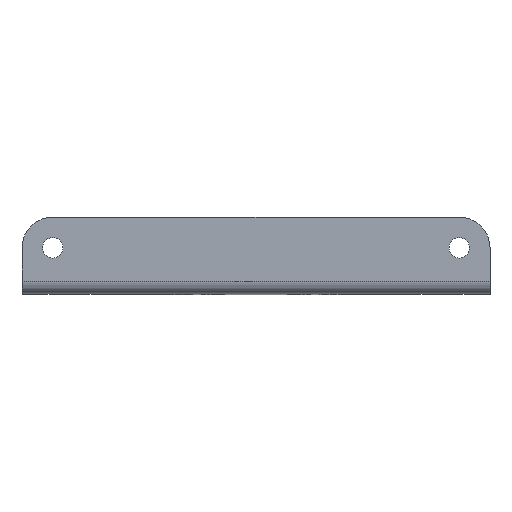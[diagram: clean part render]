
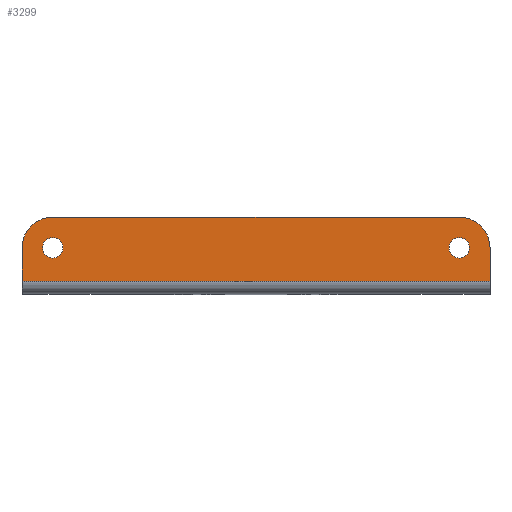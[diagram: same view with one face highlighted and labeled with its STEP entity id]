
A CAD part, top view. The second image highlights one B-rep face of the part: STEP entity #3299.
In plain terms, the highlighted planar face has unit normal (0, 0, 1).
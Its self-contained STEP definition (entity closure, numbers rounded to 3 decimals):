
#95 = VERTEX_POINT ( 'NONE', #1856 ) ;
#174 = CARTESIAN_POINT ( 'NONE',  ( -113., 27., 7.5 ) ) ;
#280 = AXIS2_PLACEMENT_3D ( 'NONE', #2841, #956, #8169 ) ;
#520 = ORIENTED_EDGE ( 'NONE', *, *, #6548, .T. ) ;
#663 = CARTESIAN_POINT ( 'NONE',  ( 113., 27., 7.5 ) ) ;
#720 = DIRECTION ( 'NONE',  ( 0., 0., 1. ) ) ;
#801 = DIRECTION ( 'NONE',  ( 1., 0., 0. ) ) ;
#844 = ORIENTED_EDGE ( 'NONE', *, *, #5737, .T. ) ;
#956 = DIRECTION ( 'NONE',  ( 0., 0., 1. ) ) ;
#1020 = AXIS2_PLACEMENT_3D ( 'NONE', #6902, #1211, #6437 ) ;
#1040 = CARTESIAN_POINT ( 'NONE',  ( -137., 27., 7.5 ) ) ;
#1151 = VECTOR ( 'NONE', #6149, 1000. ) ;
#1211 = DIRECTION ( 'NONE',  ( 0., 0., 1. ) ) ;
#1264 = ORIENTED_EDGE ( 'NONE', *, *, #4742, .F. ) ;
#1303 = CARTESIAN_POINT ( 'NONE',  ( 125., 27., 7.5 ) ) ;
#1351 = VERTEX_POINT ( 'NONE', #1303 ) ;
#1527 = DIRECTION ( 'NONE',  ( 1., 0., 0. ) ) ;
#1651 = ORIENTED_EDGE ( 'NONE', *, *, #5656, .T. ) ;
#1746 = CARTESIAN_POINT ( 'NONE',  ( 137., 5., 7.5 ) ) ;
#1826 = VECTOR ( 'NONE', #1527, 1000. ) ;
#1834 = AXIS2_PLACEMENT_3D ( 'NONE', #1926, #720, #2060 ) ;
#1856 = CARTESIAN_POINT ( 'NONE',  ( -125., 27., 7.5 ) ) ;
#1877 = VERTEX_POINT ( 'NONE', #174 ) ;
#1893 = CARTESIAN_POINT ( 'NONE',  ( 137., 7.5, 7.5 ) ) ;
#1926 = CARTESIAN_POINT ( 'NONE',  ( 119., 27., 7.5 ) ) ;
#1945 = CARTESIAN_POINT ( 'NONE',  ( 119., 27., 7.5 ) ) ;
#2044 = VERTEX_POINT ( 'NONE', #6283 ) ;
#2060 = DIRECTION ( 'NONE',  ( 1., 0., 0. ) ) ;
#2283 = EDGE_LOOP ( 'NONE', ( #1264, #520, #4952, #1651, #5015, #844 ) ) ;
#2368 = ORIENTED_EDGE ( 'NONE', *, *, #6315, .F. ) ;
#2520 = CARTESIAN_POINT ( 'NONE',  ( 137., 5., 7.5 ) ) ;
#2575 = ORIENTED_EDGE ( 'NONE', *, *, #3346, .F. ) ;
#2734 = DIRECTION ( 'NONE',  ( 1., 0., 0. ) ) ;
#2841 = CARTESIAN_POINT ( 'NONE',  ( -119., 27., 7.5 ) ) ;
#2871 = VECTOR ( 'NONE', #7052, 1000. ) ;
#2873 = CARTESIAN_POINT ( 'NONE',  ( 137., 27., 7.5 ) ) ;
#3299 = ADVANCED_FACE ( 'NONE', ( #8380, #5238, #7822 ), #8335, .T. ) ;
#3346 = EDGE_CURVE ( 'NONE', #7965, #1351, #8198, .T. ) ;
#3643 = CARTESIAN_POINT ( 'NONE',  ( -119., 45., 7.5 ) ) ;
#3751 = EDGE_LOOP ( 'NONE', ( #8014, #4897 ) ) ;
#3873 = AXIS2_PLACEMENT_3D ( 'NONE', #5778, #5863, #2734 ) ;
#4026 = CARTESIAN_POINT ( 'NONE',  ( -119., 27., 7.5 ) ) ;
#4138 = CIRCLE ( 'NONE', #3873, 6. ) ;
#4303 = VERTEX_POINT ( 'NONE', #2873 ) ;
#4440 = LINE ( 'NONE', #1893, #2871 ) ;
#4618 = EDGE_CURVE ( 'NONE', #4785, #5582, #7989, .T. ) ;
#4742 = EDGE_CURVE ( 'NONE', #4303, #6519, #6193, .T. ) ;
#4761 = CARTESIAN_POINT ( 'NONE',  ( 137., 45., 7.5 ) ) ;
#4785 = VERTEX_POINT ( 'NONE', #3643 ) ;
#4790 = EDGE_CURVE ( 'NONE', #2044, #6852, #8150, .T. ) ;
#4839 = DIRECTION ( 'NONE',  ( 0., -1., 0. ) ) ;
#4897 = ORIENTED_EDGE ( 'NONE', *, *, #5249, .F. ) ;
#4952 = ORIENTED_EDGE ( 'NONE', *, *, #4618, .F. ) ;
#4968 = AXIS2_PLACEMENT_3D ( 'NONE', #1945, #8310, #8355 ) ;
#5015 = ORIENTED_EDGE ( 'NONE', *, *, #4790, .F. ) ;
#5107 = DIRECTION ( 'NONE',  ( 0., -1., 0. ) ) ;
#5166 = CARTESIAN_POINT ( 'NONE',  ( 137., 7.5, 7.5 ) ) ;
#5238 = FACE_BOUND ( 'NONE', #6623, .T. ) ;
#5249 = EDGE_CURVE ( 'NONE', #95, #1877, #6845, .T. ) ;
#5309 = CIRCLE ( 'NONE', #280, 18. ) ;
#5374 = CIRCLE ( 'NONE', #4968, 18. ) ;
#5582 = VERTEX_POINT ( 'NONE', #8134 ) ;
#5656 = EDGE_CURVE ( 'NONE', #4785, #6852, #5309, .T. ) ;
#5737 = EDGE_CURVE ( 'NONE', #2044, #6519, #4440, .T. ) ;
#5778 = CARTESIAN_POINT ( 'NONE',  ( 119., 27., 7.5 ) ) ;
#5863 = DIRECTION ( 'NONE',  ( 0., 0., 1. ) ) ;
#6105 = CARTESIAN_POINT ( 'NONE',  ( -137., 45., 7.5 ) ) ;
#6149 = DIRECTION ( 'NONE',  ( 0., 1., 0. ) ) ;
#6193 = LINE ( 'NONE', #1746, #7244 ) ;
#6283 = CARTESIAN_POINT ( 'NONE',  ( -137., 7.5, 7.5 ) ) ;
#6315 = EDGE_CURVE ( 'NONE', #1351, #7965, #4138, .T. ) ;
#6437 = DIRECTION ( 'NONE',  ( 1., 0., 0. ) ) ;
#6463 = DIRECTION ( 'NONE',  ( 0., 0., 1. ) ) ;
#6519 = VERTEX_POINT ( 'NONE', #5166 ) ;
#6548 = EDGE_CURVE ( 'NONE', #4303, #5582, #5374, .T. ) ;
#6623 = EDGE_LOOP ( 'NONE', ( #2368, #2575 ) ) ;
#6845 = CIRCLE ( 'NONE', #1020, 6. ) ;
#6852 = VERTEX_POINT ( 'NONE', #1040 ) ;
#6902 = CARTESIAN_POINT ( 'NONE',  ( -119., 27., 7.5 ) ) ;
#7052 = DIRECTION ( 'NONE',  ( 1., 0., 0. ) ) ;
#7120 = DIRECTION ( 'NONE',  ( 0., 0., 1. ) ) ;
#7244 = VECTOR ( 'NONE', #4839, 1000. ) ;
#7284 = CIRCLE ( 'NONE', #7975, 6. ) ;
#7822 = FACE_OUTER_BOUND ( 'NONE', #2283, .T. ) ;
#7965 = VERTEX_POINT ( 'NONE', #663 ) ;
#7973 = EDGE_CURVE ( 'NONE', #1877, #95, #7284, .T. ) ;
#7975 = AXIS2_PLACEMENT_3D ( 'NONE', #4026, #7120, #801 ) ;
#7989 = LINE ( 'NONE', #4761, #1826 ) ;
#8014 = ORIENTED_EDGE ( 'NONE', *, *, #7973, .F. ) ;
#8134 = CARTESIAN_POINT ( 'NONE',  ( 119., 45., 7.5 ) ) ;
#8150 = LINE ( 'NONE', #6105, #1151 ) ;
#8169 = DIRECTION ( 'NONE',  ( 0., -1., 0. ) ) ;
#8198 = CIRCLE ( 'NONE', #1834, 6. ) ;
#8310 = DIRECTION ( 'NONE',  ( 0., 0., 1. ) ) ;
#8333 = AXIS2_PLACEMENT_3D ( 'NONE', #2520, #6463, #5107 ) ;
#8335 = PLANE ( 'NONE',  #8333 ) ;
#8355 = DIRECTION ( 'NONE',  ( 0., -1., 0. ) ) ;
#8380 = FACE_BOUND ( 'NONE', #3751, .T. ) ;
